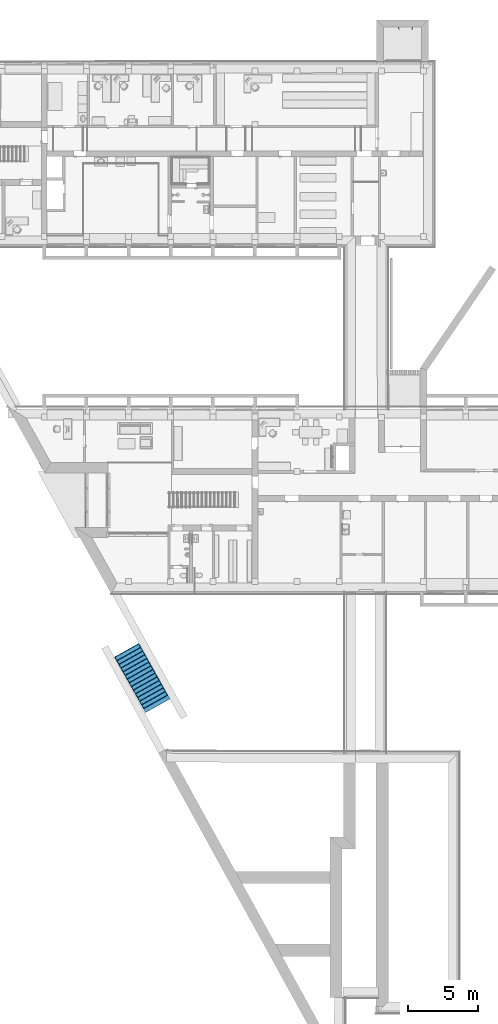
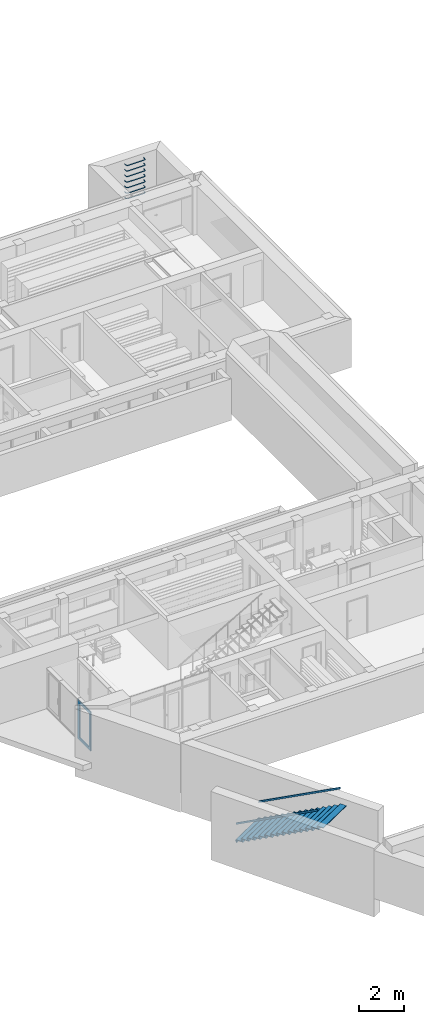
# One storey, part 61 of 127: 2 stairs, 1 building element part, 2 elements without a shape of their own.
"""IFC2X3 building model written with IfcOpenShell, lengths in millimetres."""

from ifc_helpers import new_model, entity, si_unit, converted_unit, derived_unit, money_unit, direction, frame, origin_with_axes, place, context, subcontext, project, spatial, faceted_brep, material, type_object, element, aggregate, save


model = new_model("IFC2X3")

# Units and contexts
model_context = context("Model", 3, precision=1e-05, world=origin_with_axes(), true_north=direction((0.0, 1.0)))
body_context = subcontext(model_context, "Body", "Model", "MODEL_VIEW")
ifc_project = project(units=[si_unit("LENGTHUNIT", "METRE", prefix="MILLI"), si_unit("AREAUNIT", "SQUARE_METRE"), si_unit("VOLUMEUNIT", "CUBIC_METRE"), converted_unit("PLANEANGLEUNIT", "DEGREE", entity("IfcPlaneAngleMeasure", 0.0174532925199), si_unit("PLANEANGLEUNIT", "RADIAN"), dimensions=[0, 0, 0, 0, 0, 0, 0]), si_unit("SOLIDANGLEUNIT", "STERADIAN"), money_unit("EUR"), converted_unit("TIMEUNIT", "Year", entity("IfcTimeMeasure", 31556926.0), si_unit("TIMEUNIT", "SECOND"), dimensions=[0, 0, 1, 0, 0, 0, 0]), si_unit("MASSUNIT", "GRAM", prefix="KILO"), si_unit("THERMODYNAMICTEMPERATUREUNIT", "DEGREE_CELSIUS"), si_unit("LUMINOUSINTENSITYUNIT", "LUMEN"), si_unit("ENERGYUNIT", "JOULE", prefix="MEGA"), derived_unit("THERMALCONDUCTANCEUNIT", [(si_unit("POWERUNIT", "WATT"), 1), (si_unit("LENGTHUNIT", "METRE"), -1), (si_unit("THERMODYNAMICTEMPERATUREUNIT", "KELVIN"), -1)]), derived_unit("SPECIFICHEATCAPACITYUNIT", [(si_unit("ENERGYUNIT", "JOULE"), 1), (si_unit("MASSUNIT", "GRAM", prefix="KILO"), -1), (si_unit("THERMODYNAMICTEMPERATUREUNIT", "KELVIN"), -1)]), derived_unit("MASSDENSITYUNIT", [(si_unit("MASSUNIT", "GRAM", prefix="KILO"), 1), (si_unit("VOLUMEUNIT", "CUBIC_METRE"), -1)])], contexts=[model_context])

# Site, building, storey
site_placement = place(None, origin_with_axes())
site = spatial("IfcSite", under=ifc_project, at=site_placement, Name="Site", CompositionType="ELEMENT")
building_placement = place(site_placement, origin_with_axes())
building = spatial("IfcBuilding", under=site, at=building_placement, Name="Building", CompositionType="ELEMENT")
storey_placement = place(building_placement, origin_with_axes())
storey = spatial("IfcBuildingStorey", under=building, at=storey_placement, Name="1 KORRUS", CompositionType="ELEMENT", Elevation=0.0)

# Stairs
stair_1_placement = place(storey_placement, frame((41660.2282706, 74449.3814304, 0.0), z_axis=(0.0, 0.0, 1.0), x_axis=(1.0, 0.0, 0.0)))
element("IfcStair", 1, at=stair_1_placement, inside=storey, Name="FU - 001", ShapeType="NOTDEFINED", context=body_context, shape_type="Brep", body=[
    faceted_brep([(-500.0, -112.0, 570.0), (-476.33422792, -169.13422792, 570.0), (-476.33422792, -169.13422792, 600.0), (-500.0, -112.0, 600.0), (-500.0, 0.0, 570.0), (-470.0, 0.0, 570.0), (-470.0, -112.0, 570.0), (-455.121024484, -147.921024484, 570.0), (-419.2, -162.8, 570.0), (419.2, -162.8, 570.0), (455.121024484, -147.921024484, 570.0), (470.0, -112.0, 570.0), (470.0, 0.0, 570.0), (500.0, 0.0, 570.0), (500.0, -112.0, 570.0), (476.33422792, -169.13422792, 570.0), (419.2, -192.8, 570.0), (-419.2, -192.8, 570.0), (-419.2, -192.8, 600.0), (419.2, -192.8, 600.0), (476.33422792, -169.13422792, 600.0), (500.0, -112.0, 600.0), (500.0, 0.0, 600.0), (470.0, 0.0, 600.0), (470.0, -112.0, 600.0), (455.121024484, -147.921024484, 600.0), (419.2, -162.8, 600.0), (-419.2, -162.8, 600.0), (-455.121024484, -147.921024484, 600.0), (-470.0, -112.0, 600.0), (-470.0, 0.0, 600.0), (-500.0, 0.0, 600.0)], [[[0, 1, 2, 3]], [[0, 4, 5, 6, 7, 8, 9, 10, 11, 12, 13, 14, 15, 16, 17, 1]], [[1, 17, 18, 2]], [[3, 2, 18, 19, 20, 21, 22, 23, 24, 25, 26, 27, 28, 29, 30, 31]], [[4, 0, 3, 31]], [[5, 4, 31, 30]], [[6, 5, 30, 29]], [[7, 6, 29, 28]], [[8, 7, 28, 27]], [[9, 8, 27, 26]], [[10, 9, 26, 25]], [[11, 10, 25, 24]], [[12, 11, 24, 23]], [[13, 12, 23, 22]], [[14, 13, 22, 21]], [[15, 14, 21, 20]], [[16, 15, 20, 19]], [[17, 16, 19, 18]]]),
    faceted_brep([(-500.0, -112.0, 870.0), (-476.33422792, -169.13422792, 870.0), (-476.33422792, -169.13422792, 900.0), (-500.0, -112.0, 900.0), (-500.0, 0.0, 870.0), (-470.0, 0.0, 870.0), (-470.0, -112.0, 870.0), (-455.121024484, -147.921024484, 870.0), (-419.2, -162.8, 870.0), (419.2, -162.8, 870.0), (455.121024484, -147.921024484, 870.0), (470.0, -112.0, 870.0), (470.0, 0.0, 870.0), (500.0, 0.0, 870.0), (500.0, -112.0, 870.0), (476.33422792, -169.13422792, 870.0), (419.2, -192.8, 870.0), (-419.2, -192.8, 870.0), (-419.2, -192.8, 900.0), (419.2, -192.8, 900.0), (476.33422792, -169.13422792, 900.0), (500.0, -112.0, 900.0), (500.0, 0.0, 900.0), (470.0, 0.0, 900.0), (470.0, -112.0, 900.0), (455.121024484, -147.921024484, 900.0), (419.2, -162.8, 900.0), (-419.2, -162.8, 900.0), (-455.121024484, -147.921024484, 900.0), (-470.0, -112.0, 900.0), (-470.0, 0.0, 900.0), (-500.0, 0.0, 900.0)], [[[0, 1, 2, 3]], [[0, 4, 5, 6, 7, 8, 9, 10, 11, 12, 13, 14, 15, 16, 17, 1]], [[1, 17, 18, 2]], [[3, 2, 18, 19, 20, 21, 22, 23, 24, 25, 26, 27, 28, 29, 30, 31]], [[4, 0, 3, 31]], [[5, 4, 31, 30]], [[6, 5, 30, 29]], [[7, 6, 29, 28]], [[8, 7, 28, 27]], [[9, 8, 27, 26]], [[10, 9, 26, 25]], [[11, 10, 25, 24]], [[12, 11, 24, 23]], [[13, 12, 23, 22]], [[14, 13, 22, 21]], [[15, 14, 21, 20]], [[16, 15, 20, 19]], [[17, 16, 19, 18]]]),
    faceted_brep([(-500.0, -112.0, 1170.0), (-476.33422792, -169.13422792, 1170.0), (-476.33422792, -169.13422792, 1200.0), (-500.0, -112.0, 1200.0), (-500.0, 0.0, 1170.0), (-470.0, 0.0, 1170.0), (-470.0, -112.0, 1170.0), (-455.121024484, -147.921024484, 1170.0), (-419.2, -162.8, 1170.0), (419.2, -162.8, 1170.0), (455.121024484, -147.921024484, 1170.0), (470.0, -112.0, 1170.0), (470.0, 0.0, 1170.0), (500.0, 0.0, 1170.0), (500.0, -112.0, 1170.0), (476.33422792, -169.13422792, 1170.0), (419.2, -192.8, 1170.0), (-419.2, -192.8, 1170.0), (-419.2, -192.8, 1200.0), (419.2, -192.8, 1200.0), (476.33422792, -169.13422792, 1200.0), (500.0, -112.0, 1200.0), (500.0, 0.0, 1200.0), (470.0, 0.0, 1200.0), (470.0, -112.0, 1200.0), (455.121024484, -147.921024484, 1200.0), (419.2, -162.8, 1200.0), (-419.2, -162.8, 1200.0), (-455.121024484, -147.921024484, 1200.0), (-470.0, -112.0, 1200.0), (-470.0, 0.0, 1200.0), (-500.0, 0.0, 1200.0)], [[[0, 1, 2, 3]], [[0, 4, 5, 6, 7, 8, 9, 10, 11, 12, 13, 14, 15, 16, 17, 1]], [[1, 17, 18, 2]], [[3, 2, 18, 19, 20, 21, 22, 23, 24, 25, 26, 27, 28, 29, 30, 31]], [[4, 0, 3, 31]], [[5, 4, 31, 30]], [[6, 5, 30, 29]], [[7, 6, 29, 28]], [[8, 7, 28, 27]], [[9, 8, 27, 26]], [[10, 9, 26, 25]], [[11, 10, 25, 24]], [[12, 11, 24, 23]], [[13, 12, 23, 22]], [[14, 13, 22, 21]], [[15, 14, 21, 20]], [[16, 15, 20, 19]], [[17, 16, 19, 18]]]),
    faceted_brep([(-500.0, -112.0, 1470.0), (-476.33422792, -169.13422792, 1470.0), (-476.33422792, -169.13422792, 1500.0), (-500.0, -112.0, 1500.0), (-500.0, 0.0, 1470.0), (-470.0, 0.0, 1470.0), (-470.0, -112.0, 1470.0), (-455.121024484, -147.921024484, 1470.0), (-419.2, -162.8, 1470.0), (419.2, -162.8, 1470.0), (455.121024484, -147.921024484, 1470.0), (470.0, -112.0, 1470.0), (470.0, 0.0, 1470.0), (500.0, 0.0, 1470.0), (500.0, -112.0, 1470.0), (476.33422792, -169.13422792, 1470.0), (419.2, -192.8, 1470.0), (-419.2, -192.8, 1470.0), (-419.2, -192.8, 1500.0), (419.2, -192.8, 1500.0), (476.33422792, -169.13422792, 1500.0), (500.0, -112.0, 1500.0), (500.0, 0.0, 1500.0), (470.0, 0.0, 1500.0), (470.0, -112.0, 1500.0), (455.121024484, -147.921024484, 1500.0), (419.2, -162.8, 1500.0), (-419.2, -162.8, 1500.0), (-455.121024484, -147.921024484, 1500.0), (-470.0, -112.0, 1500.0), (-470.0, 0.0, 1500.0), (-500.0, 0.0, 1500.0)], [[[0, 1, 2, 3]], [[0, 4, 5, 6, 7, 8, 9, 10, 11, 12, 13, 14, 15, 16, 17, 1]], [[1, 17, 18, 2]], [[3, 2, 18, 19, 20, 21, 22, 23, 24, 25, 26, 27, 28, 29, 30, 31]], [[4, 0, 3, 31]], [[5, 4, 31, 30]], [[6, 5, 30, 29]], [[7, 6, 29, 28]], [[8, 7, 28, 27]], [[9, 8, 27, 26]], [[10, 9, 26, 25]], [[11, 10, 25, 24]], [[12, 11, 24, 23]], [[13, 12, 23, 22]], [[14, 13, 22, 21]], [[15, 14, 21, 20]], [[16, 15, 20, 19]], [[17, 16, 19, 18]]]),
    faceted_brep([(-500.0, -112.0, 1770.0), (-476.33422792, -169.13422792, 1770.0), (-476.33422792, -169.13422792, 1800.0), (-500.0, -112.0, 1800.0), (-500.0, 0.0, 1770.0), (-470.0, 0.0, 1770.0), (-470.0, -112.0, 1770.0), (-455.121024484, -147.921024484, 1770.0), (-419.2, -162.8, 1770.0), (419.2, -162.8, 1770.0), (455.121024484, -147.921024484, 1770.0), (470.0, -112.0, 1770.0), (470.0, 0.0, 1770.0), (500.0, 0.0, 1770.0), (500.0, -112.0, 1770.0), (476.33422792, -169.13422792, 1770.0), (419.2, -192.8, 1770.0), (-419.2, -192.8, 1770.0), (-419.2, -192.8, 1800.0), (419.2, -192.8, 1800.0), (476.33422792, -169.13422792, 1800.0), (500.0, -112.0, 1800.0), (500.0, 0.0, 1800.0), (470.0, 0.0, 1800.0), (470.0, -112.0, 1800.0), (455.121024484, -147.921024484, 1800.0), (419.2, -162.8, 1800.0), (-419.2, -162.8, 1800.0), (-455.121024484, -147.921024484, 1800.0), (-470.0, -112.0, 1800.0), (-470.0, 0.0, 1800.0), (-500.0, 0.0, 1800.0)], [[[0, 1, 2, 3]], [[0, 4, 5, 6, 7, 8, 9, 10, 11, 12, 13, 14, 15, 16, 17, 1]], [[1, 17, 18, 2]], [[3, 2, 18, 19, 20, 21, 22, 23, 24, 25, 26, 27, 28, 29, 30, 31]], [[4, 0, 3, 31]], [[5, 4, 31, 30]], [[6, 5, 30, 29]], [[7, 6, 29, 28]], [[8, 7, 28, 27]], [[9, 8, 27, 26]], [[10, 9, 26, 25]], [[11, 10, 25, 24]], [[12, 11, 24, 23]], [[13, 12, 23, 22]], [[14, 13, 22, 21]], [[15, 14, 21, 20]], [[16, 15, 20, 19]], [[17, 16, 19, 18]]]),
    faceted_brep([(-500.0, -112.0, 2070.0), (-476.33422792, -169.13422792, 2070.0), (-476.33422792, -169.13422792, 2100.0), (-500.0, -112.0, 2100.0), (-500.0, 0.0, 2070.0), (-470.0, 0.0, 2070.0), (-470.0, -112.0, 2070.0), (-455.121024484, -147.921024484, 2070.0), (-419.2, -162.8, 2070.0), (419.2, -162.8, 2070.0), (455.121024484, -147.921024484, 2070.0), (470.0, -112.0, 2070.0), (470.0, 0.0, 2070.0), (500.0, 0.0, 2070.0), (500.0, -112.0, 2070.0), (476.33422792, -169.13422792, 2070.0), (419.2, -192.8, 2070.0), (-419.2, -192.8, 2070.0), (-419.2, -192.8, 2100.0), (419.2, -192.8, 2100.0), (476.33422792, -169.13422792, 2100.0), (500.0, -112.0, 2100.0), (500.0, 0.0, 2100.0), (470.0, 0.0, 2100.0), (470.0, -112.0, 2100.0), (455.121024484, -147.921024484, 2100.0), (419.2, -162.8, 2100.0), (-419.2, -162.8, 2100.0), (-455.121024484, -147.921024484, 2100.0), (-470.0, -112.0, 2100.0), (-470.0, 0.0, 2100.0), (-500.0, 0.0, 2100.0)], [[[0, 1, 2, 3]], [[0, 4, 5, 6, 7, 8, 9, 10, 11, 12, 13, 14, 15, 16, 17, 1]], [[1, 17, 18, 2]], [[3, 2, 18, 19, 20, 21, 22, 23, 24, 25, 26, 27, 28, 29, 30, 31]], [[4, 0, 3, 31]], [[5, 4, 31, 30]], [[6, 5, 30, 29]], [[7, 6, 29, 28]], [[8, 7, 28, 27]], [[9, 8, 27, 26]], [[10, 9, 26, 25]], [[11, 10, 25, 24]], [[12, 11, 24, 23]], [[13, 12, 23, 22]], [[14, 13, 22, 21]], [[15, 14, 21, 20]], [[16, 15, 20, 19]], [[17, 16, 19, 18]]]),
    faceted_brep([(-500.0, -112.0, 2370.0), (-476.33422792, -169.13422792, 2370.0), (-476.33422792, -169.13422792, 2400.0), (-500.0, -112.0, 2400.0), (-500.0, 0.0, 2370.0), (-470.0, 0.0, 2370.0), (-470.0, -112.0, 2370.0), (-455.121024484, -147.921024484, 2370.0), (-419.2, -162.8, 2370.0), (419.2, -162.8, 2370.0), (455.121024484, -147.921024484, 2370.0), (470.0, -112.0, 2370.0), (470.0, 0.0, 2370.0), (500.0, 0.0, 2370.0), (500.0, -112.0, 2370.0), (476.33422792, -169.13422792, 2370.0), (419.2, -192.8, 2370.0), (-419.2, -192.8, 2370.0), (-419.2, -192.8, 2400.0), (419.2, -192.8, 2400.0), (476.33422792, -169.13422792, 2400.0), (500.0, -112.0, 2400.0), (500.0, 0.0, 2400.0), (470.0, 0.0, 2400.0), (470.0, -112.0, 2400.0), (455.121024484, -147.921024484, 2400.0), (419.2, -162.8, 2400.0), (-419.2, -162.8, 2400.0), (-455.121024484, -147.921024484, 2400.0), (-470.0, -112.0, 2400.0), (-470.0, 0.0, 2400.0), (-500.0, 0.0, 2400.0)], [[[0, 1, 2, 3]], [[0, 4, 5, 6, 7, 8, 9, 10, 11, 12, 13, 14, 15, 16, 17, 1]], [[1, 17, 18, 2]], [[3, 2, 18, 19, 20, 21, 22, 23, 24, 25, 26, 27, 28, 29, 30, 31]], [[4, 0, 3, 31]], [[5, 4, 31, 30]], [[6, 5, 30, 29]], [[7, 6, 29, 28]], [[8, 7, 28, 27]], [[9, 8, 27, 26]], [[10, 9, 26, 25]], [[11, 10, 25, 24]], [[12, 11, 24, 23]], [[13, 12, 23, 22]], [[14, 13, 22, 21]], [[15, 14, 21, 20]], [[16, 15, 20, 19]], [[17, 16, 19, 18]]]),
])
stair_2_placement = place(storey_placement, frame((20950.6617716, 29570.1616597, -4.68796701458e-06), z_axis=(0.0, 0.0, 1.0), x_axis=(-0.872443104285, -0.48871569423, 0.0)))
element("IfcStair", 2, at=stair_2_placement, inside=storey, Name="Air Space", ShapeType="NOTDEFINED", context=body_context, shape_type="Brep", body=[
    faceted_brep([(0.0, 373.333333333, 122.5), (-2006.77870703, 373.333333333, 122.5), (-2006.77870703, 356.145833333, 160.0), (0.0, 356.145833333, 160.0), (0.0, 0.0, 122.5), (-2006.77870703, 0.0, 122.5), (-2006.77870703, 56.1458333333, 0.0), (-2006.77870703, 18.6458333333, 0.0), (-2006.77870703, -37.5, 122.5), (-2006.77870703, 0.0, 160.0), (0.0, 0.0, 160.0), (0.0, -37.5, 122.5), (0.0, 18.6458333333, 0.0), (0.0, 56.1458333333, 0.0)], [[[0, 1, 2, 3]], [[4, 5, 1, 0]], [[1, 5, 6, 7, 8, 9, 2]], [[3, 2, 9, 10]], [[0, 3, 10, 11, 12, 13, 4]], [[13, 6, 5, 4]], [[12, 7, 6, 13]], [[11, 8, 7, 12]], [[10, 9, 8, 11]]]),
    faceted_brep([(0.0, 673.333333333, 282.5), (-2006.77870703, 673.333333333, 282.5), (-2006.77870703, 656.145833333, 320.0), (0.0, 656.145833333, 320.0), (0.0, 300.0, 282.5), (-2006.77870703, 300.0, 282.5), (-2006.77870703, 356.145833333, 160.0), (-2006.77870703, 318.645833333, 160.0), (-2006.77870703, 262.5, 282.5), (-2006.77870703, 300.0, 320.0), (0.0, 300.0, 320.0), (0.0, 262.5, 282.5), (0.0, 318.645833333, 160.0), (0.0, 356.145833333, 160.0)], [[[0, 1, 2, 3]], [[4, 5, 1, 0]], [[1, 5, 6, 7, 8, 9, 2]], [[3, 2, 9, 10]], [[0, 3, 10, 11, 12, 13, 4]], [[13, 6, 5, 4]], [[12, 7, 6, 13]], [[11, 8, 7, 12]], [[10, 9, 8, 11]]]),
    faceted_brep([(0.0, 973.333333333, 442.5), (-2006.77870703, 973.333333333, 442.5), (-2006.77870703, 956.145833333, 480.0), (0.0, 956.145833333, 480.0), (0.0, 600.0, 442.5), (-2006.77870703, 600.0, 442.5), (-2006.77870703, 656.145833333, 320.0), (-2006.77870703, 618.645833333, 320.0), (-2006.77870703, 562.5, 442.5), (-2006.77870703, 600.0, 480.0), (0.0, 600.0, 480.0), (0.0, 562.5, 442.5), (0.0, 618.645833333, 320.0), (0.0, 656.145833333, 320.0)], [[[0, 1, 2, 3]], [[4, 5, 1, 0]], [[1, 5, 6, 7, 8, 9, 2]], [[3, 2, 9, 10]], [[0, 3, 10, 11, 12, 13, 4]], [[13, 6, 5, 4]], [[12, 7, 6, 13]], [[11, 8, 7, 12]], [[10, 9, 8, 11]]]),
    faceted_brep([(0.0, 1273.33333333, 602.5), (-2006.77870703, 1273.33333333, 602.5), (-2006.77870703, 1256.14583333, 640.0), (0.0, 1256.14583333, 640.0), (0.0, 900.0, 602.5), (-2006.77870703, 900.0, 602.5), (-2006.77870703, 956.145833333, 480.0), (-2006.77870703, 918.645833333, 480.0), (-2006.77870703, 862.5, 602.5), (-2006.77870703, 900.0, 640.0), (0.0, 900.0, 640.0), (0.0, 862.5, 602.5), (0.0, 918.645833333, 480.0), (0.0, 956.145833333, 480.0)], [[[0, 1, 2, 3]], [[4, 5, 1, 0]], [[1, 5, 6, 7, 8, 9, 2]], [[3, 2, 9, 10]], [[0, 3, 10, 11, 12, 13, 4]], [[13, 6, 5, 4]], [[12, 7, 6, 13]], [[11, 8, 7, 12]], [[10, 9, 8, 11]]]),
    faceted_brep([(0.0, 1573.33333333, 762.5), (-2006.77870703, 1573.33333333, 762.5), (-2006.77870703, 1556.14583333, 800.0), (0.0, 1556.14583333, 800.0), (0.0, 1200.0, 762.5), (-2006.77870703, 1200.0, 762.5), (-2006.77870703, 1256.14583333, 640.0), (-2006.77870703, 1218.64583333, 640.0), (-2006.77870703, 1162.5, 762.5), (-2006.77870703, 1200.0, 800.0), (0.0, 1200.0, 800.0), (0.0, 1162.5, 762.5), (0.0, 1218.64583333, 640.0), (0.0, 1256.14583333, 640.0)], [[[0, 1, 2, 3]], [[4, 5, 1, 0]], [[1, 5, 6, 7, 8, 9, 2]], [[3, 2, 9, 10]], [[0, 3, 10, 11, 12, 13, 4]], [[13, 6, 5, 4]], [[12, 7, 6, 13]], [[11, 8, 7, 12]], [[10, 9, 8, 11]]]),
    faceted_brep([(0.0, 1873.33333333, 922.5), (-2006.77870703, 1873.33333333, 922.5), (-2006.77870703, 1856.14583333, 960.0), (0.0, 1856.14583333, 960.0), (0.0, 1500.0, 922.5), (-2006.77870703, 1500.0, 922.5), (-2006.77870703, 1556.14583333, 800.0), (-2006.77870703, 1518.64583333, 800.0), (-2006.77870703, 1462.5, 922.5), (-2006.77870703, 1500.0, 960.0), (0.0, 1500.0, 960.0), (0.0, 1462.5, 922.5), (0.0, 1518.64583333, 800.0), (0.0, 1556.14583333, 800.0)], [[[0, 1, 2, 3]], [[4, 5, 1, 0]], [[1, 5, 6, 7, 8, 9, 2]], [[3, 2, 9, 10]], [[0, 3, 10, 11, 12, 13, 4]], [[13, 6, 5, 4]], [[12, 7, 6, 13]], [[11, 8, 7, 12]], [[10, 9, 8, 11]]]),
    faceted_brep([(0.0, 2173.33333333, 1082.5), (-2006.77870703, 2173.33333333, 1082.5), (-2006.77870703, 2156.14583333, 1120.0), (0.0, 2156.14583333, 1120.0), (0.0, 1800.0, 1082.5), (-2006.77870703, 1800.0, 1082.5), (-2006.77870703, 1856.14583333, 960.0), (-2006.77870703, 1818.64583333, 960.0), (-2006.77870703, 1762.5, 1082.5), (-2006.77870703, 1800.0, 1120.0), (0.0, 1800.0, 1120.0), (0.0, 1762.5, 1082.5), (0.0, 1818.64583333, 960.0), (0.0, 1856.14583333, 960.0)], [[[0, 1, 2, 3]], [[4, 5, 1, 0]], [[1, 5, 6, 7, 8, 9, 2]], [[3, 2, 9, 10]], [[0, 3, 10, 11, 12, 13, 4]], [[13, 6, 5, 4]], [[12, 7, 6, 13]], [[11, 8, 7, 12]], [[10, 9, 8, 11]]]),
    faceted_brep([(0.0, 2473.33333333, 1242.5), (-2006.77870703, 2473.33333333, 1242.5), (-2006.77870703, 2456.14583333, 1280.0), (0.0, 2456.14583333, 1280.0), (0.0, 2100.0, 1242.5), (-2006.77870703, 2100.0, 1242.5), (-2006.77870703, 2156.14583333, 1120.0), (-2006.77870703, 2118.64583333, 1120.0), (-2006.77870703, 2062.5, 1242.5), (-2006.77870703, 2100.0, 1280.0), (0.0, 2100.0, 1280.0), (0.0, 2062.5, 1242.5), (0.0, 2118.64583333, 1120.0), (0.0, 2156.14583333, 1120.0)], [[[0, 1, 2, 3]], [[4, 5, 1, 0]], [[1, 5, 6, 7, 8, 9, 2]], [[3, 2, 9, 10]], [[0, 3, 10, 11, 12, 13, 4]], [[13, 6, 5, 4]], [[12, 7, 6, 13]], [[11, 8, 7, 12]], [[10, 9, 8, 11]]]),
    faceted_brep([(0.0, 2773.33333333, 1402.5), (-2006.77870703, 2773.33333333, 1402.5), (-2006.77870703, 2756.14583333, 1440.0), (0.0, 2756.14583333, 1440.0), (0.0, 2400.0, 1402.5), (-2006.77870703, 2400.0, 1402.5), (-2006.77870703, 2456.14583333, 1280.0), (-2006.77870703, 2418.64583333, 1280.0), (-2006.77870703, 2362.5, 1402.5), (-2006.77870703, 2400.0, 1440.0), (0.0, 2400.0, 1440.0), (0.0, 2362.5, 1402.5), (0.0, 2418.64583333, 1280.0), (0.0, 2456.14583333, 1280.0)], [[[0, 1, 2, 3]], [[4, 5, 1, 0]], [[1, 5, 6, 7, 8, 9, 2]], [[3, 2, 9, 10]], [[0, 3, 10, 11, 12, 13, 4]], [[13, 6, 5, 4]], [[12, 7, 6, 13]], [[11, 8, 7, 12]], [[10, 9, 8, 11]]]),
    faceted_brep([(0.0, 3073.33333333, 1562.5), (-2006.77870703, 3073.33333333, 1562.5), (-2006.77870703, 3056.14583333, 1600.0), (0.0, 3056.14583333, 1600.0), (0.0, 2700.0, 1562.5), (-2006.77870703, 2700.0, 1562.5), (-2006.77870703, 2756.14583333, 1440.0), (-2006.77870703, 2718.64583333, 1440.0), (-2006.77870703, 2662.5, 1562.5), (-2006.77870703, 2700.0, 1600.0), (0.0, 2700.0, 1600.0), (0.0, 2662.5, 1562.5), (0.0, 2718.64583333, 1440.0), (0.0, 2756.14583333, 1440.0)], [[[0, 1, 2, 3]], [[4, 5, 1, 0]], [[1, 5, 6, 7, 8, 9, 2]], [[3, 2, 9, 10]], [[0, 3, 10, 11, 12, 13, 4]], [[13, 6, 5, 4]], [[12, 7, 6, 13]], [[11, 8, 7, 12]], [[10, 9, 8, 11]]]),
    faceted_brep([(0.0, 3373.33333333, 1722.5), (-2006.77870703, 3373.33333333, 1722.5), (-2006.77870703, 3356.14583333, 1760.0), (0.0, 3356.14583333, 1760.0), (0.0, 3000.0, 1722.5), (-2006.77870703, 3000.0, 1722.5), (-2006.77870703, 3056.14583333, 1600.0), (-2006.77870703, 3018.64583333, 1600.0), (-2006.77870703, 2962.5, 1722.5), (-2006.77870703, 3000.0, 1760.0), (0.0, 3000.0, 1760.0), (0.0, 2962.5, 1722.5), (0.0, 3018.64583333, 1600.0), (0.0, 3056.14583333, 1600.0)], [[[0, 1, 2, 3]], [[4, 5, 1, 0]], [[1, 5, 6, 7, 8, 9, 2]], [[3, 2, 9, 10]], [[0, 3, 10, 11, 12, 13, 4]], [[13, 6, 5, 4]], [[12, 7, 6, 13]], [[11, 8, 7, 12]], [[10, 9, 8, 11]]]),
    faceted_brep([(0.0, 3673.33333333, 1882.5), (-2006.77870703, 3673.33333333, 1882.5), (-2006.77870703, 3656.14583333, 1920.0), (0.0, 3656.14583333, 1920.0), (0.0, 3300.0, 1882.5), (-2006.77870703, 3300.0, 1882.5), (-2006.77870703, 3356.14583333, 1760.0), (-2006.77870703, 3318.64583333, 1760.0), (-2006.77870703, 3262.5, 1882.5), (-2006.77870703, 3300.0, 1920.0), (0.0, 3300.0, 1920.0), (0.0, 3262.5, 1882.5), (0.0, 3318.64583333, 1760.0), (0.0, 3356.14583333, 1760.0)], [[[0, 1, 2, 3]], [[4, 5, 1, 0]], [[1, 5, 6, 7, 8, 9, 2]], [[3, 2, 9, 10]], [[0, 3, 10, 11, 12, 13, 4]], [[13, 6, 5, 4]], [[12, 7, 6, 13]], [[11, 8, 7, 12]], [[10, 9, 8, 11]]]),
    faceted_brep([(0.0, 3973.33333333, 2042.5), (-2006.77870703, 3973.33333333, 2042.5), (-2006.77870703, 3956.14583333, 2080.0), (0.0, 3956.14583333, 2080.0), (0.0, 3600.0, 2042.5), (-2006.77870703, 3600.0, 2042.5), (-2006.77870703, 3656.14583333, 1920.0), (-2006.77870703, 3618.64583333, 1920.0), (-2006.77870703, 3562.5, 2042.5), (-2006.77870703, 3600.0, 2080.0), (0.0, 3600.0, 2080.0), (0.0, 3562.5, 2042.5), (0.0, 3618.64583333, 1920.0), (0.0, 3656.14583333, 1920.0)], [[[0, 1, 2, 3]], [[4, 5, 1, 0]], [[1, 5, 6, 7, 8, 9, 2]], [[3, 2, 9, 10]], [[0, 3, 10, 11, 12, 13, 4]], [[13, 6, 5, 4]], [[12, 7, 6, 13]], [[11, 8, 7, 12]], [[10, 9, 8, 11]]]),
    faceted_brep([(0.0, 4273.33333333, 2202.5), (-2006.77870703, 4273.33333333, 2202.5), (-2006.77870703, 4256.14583333, 2240.0), (0.0, 4256.14583333, 2240.0), (0.0, 3900.0, 2202.5), (-2006.77870703, 3900.0, 2202.5), (-2006.77870703, 3956.14583333, 2080.0), (-2006.77870703, 3918.64583333, 2080.0), (-2006.77870703, 3862.5, 2202.5), (-2006.77870703, 3900.0, 2240.0), (0.0, 3900.0, 2240.0), (0.0, 3862.5, 2202.5), (0.0, 3918.64583333, 2080.0), (0.0, 3956.14583333, 2080.0)], [[[0, 1, 2, 3]], [[4, 5, 1, 0]], [[1, 5, 6, 7, 8, 9, 2]], [[3, 2, 9, 10]], [[0, 3, 10, 11, 12, 13, 4]], [[13, 6, 5, 4]], [[12, 7, 6, 13]], [[11, 8, 7, 12]], [[10, 9, 8, 11]]]),
    faceted_brep([(0.0, 4500.0, 2362.5), (-2006.77870703, 4500.0, 2362.5), (-2006.77870703, 4500.0, 2400.0), (0.0, 4500.0, 2400.0), (0.0, 4200.0, 2362.5), (-2006.77870703, 4200.0, 2362.5), (-2006.77870703, 4256.14583333, 2240.0), (-2006.77870703, 4218.64583333, 2240.0), (-2006.77870703, 4162.5, 2362.5), (-2006.77870703, 4200.0, 2400.0), (0.0, 4200.0, 2400.0), (0.0, 4162.5, 2362.5), (0.0, 4218.64583333, 2240.0), (0.0, 4256.14583333, 2240.0)], [[[0, 1, 2, 3]], [[4, 5, 1, 0]], [[1, 5, 6, 7, 8, 9, 2]], [[3, 2, 9, 10]], [[0, 3, 10, 11, 12, 13, 4]], [[13, 6, 5, 4]], [[12, 7, 6, 13]], [[11, 8, 7, 12]], [[10, 9, 8, 11]]]),
    faceted_brep([(0.0, 0.0, 960.0), (-40.0, 0.0, 960.0), (-40.0, 4200.0, 3200.0), (0.0, 4200.0, 3200.0), (0.0, 0.0, 1060.0), (-40.0, 0.0, 1060.0), (-40.0, 4200.0, 3300.0), (0.0, 4200.0, 3300.0)], [[[0, 1, 2, 3]], [[4, 5, 1, 0]], [[1, 5, 6, 2]], [[3, 2, 6, 7]], [[0, 3, 7, 4]], [[7, 6, 5, 4]]]),
    faceted_brep([(-1966.77870703, 0.0, 960.0), (-2006.77870703, 0.0, 960.0), (-2006.77870703, 4200.0, 3200.0), (-1966.77870703, 4200.0, 3200.0), (-1966.77870703, 0.0, 1060.0), (-2006.77870703, 0.0, 1060.0), (-2006.77870703, 4200.0, 3300.0), (-1966.77870703, 4200.0, 3300.0)], [[[0, 1, 2, 3]], [[4, 5, 1, 0]], [[1, 5, 6, 2]], [[3, 2, 6, 7]], [[0, 3, 7, 4]], [[7, 6, 5, 4]]]),
])

# Curtain wall, door, building element part
curtain_wall_type = type_object("IfcCurtainWallType", Name="VU-2", PredefinedType="NOTDEFINED")
curtain_wall_placement = place(storey_placement, frame((18897.7258144, 42128.0459009, 25.0), z_axis=(0.0, 0.0, 1.0), x_axis=(1.0, 0.0, 0.0)))
curtain_wall = element("IfcCurtainWall", 3, at=curtain_wall_placement, inside=storey, type_object=curtain_wall_type, Name="Välisuks")
door_style = type_object("IfcDoorStyle", Name="1150 x 5 x 20", ConstructionType="NOTDEFINED", OperationType="NOTDEFINED", ParameterTakesPrecedence=False, Sizeable=False)
door_placement = place(curtain_wall_placement, frame((0.0, -2715.54791545, 1075.0), z_axis=(0.0, 0.0, 1.0), x_axis=(0.0, 1.0, 0.0)))
door = element("IfcDoor", 4, at=door_placement, type_object=door_style, Name="Välisuks * CW Door 22")
aggregate(curtain_wall, [door])
ifc_material = material(Name="Alumiinium (1)")
building_element_part_placement = place(door_placement, origin_with_axes())
building_element_part = element("IfcBuildingElementPart", 5, at=building_element_part_placement, material=ifc_material, Name="Alumiinium (1)", context=body_context, shape_type="Brep", body=[
    faceted_brep([(-575.000011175, -35.0, -1049.99999627), (-575.000011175, -35.0, 1049.99999627), (-575.000011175, -30.0, 1049.99999627), (-575.000011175, -30.0, -1049.99999627), (-530.000011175, -35.0, -1049.99999627), (-530.000011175, -35.0, 1004.99999627), (-530.000011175, -30.0, 1004.99999627), (-530.000011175, -30.0, -1049.99999627)], [[[0, 1, 2, 3]], [[0, 4, 5, 1]], [[1, 5, 6, 2]], [[3, 2, 6, 7]], [[4, 0, 3, 7]], [[5, 4, 7, 6]]]),
    faceted_brep([(564.999998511, -35.0, 1049.99999627), (519.999998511, -35.0, 1004.99999627), (519.999998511, -30.0, 1004.99999627), (564.999998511, -30.0, 1049.99999627), (-575.000011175, -35.0, 1049.99999627), (-530.000011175, -35.0, 1004.99999627), (-530.000011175, -30.0, 1004.99999627), (-575.000011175, -30.0, 1049.99999627)], [[[0, 1, 2, 3]], [[0, 4, 5, 1]], [[1, 5, 6, 2]], [[3, 2, 6, 7]], [[4, 0, 3, 7]], [[5, 4, 7, 6]]]),
    faceted_brep([(564.999998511, -35.0, -1049.99999627), (519.999998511, -35.0, -1049.99999627), (519.999998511, -30.0, -1049.99999627), (564.999998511, -30.0, -1049.99999627), (564.999998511, -35.0, 1049.99999627), (519.999998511, -35.0, 1004.99999627), (519.999998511, -30.0, 1004.99999627), (564.999998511, -30.0, 1049.99999627)], [[[0, 1, 2, 3]], [[0, 4, 5, 1]], [[1, 5, 6, 2]], [[3, 2, 6, 7]], [[4, 0, 3, 7]], [[5, 4, 7, 6]]]),
    faceted_brep([(-575.000011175, -30.0, -1049.99999627), (-575.000011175, -30.0, 1049.99999627), (-575.000011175, 20.0, 1049.99999627), (-575.000011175, 20.0, -1049.99999627), (-555.000011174, -30.0, -1049.99999627), (-555.000011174, -30.0, 1029.99999627), (-555.000011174, 20.0, 1029.99999627), (-555.000011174, 20.0, -1049.99999627)], [[[0, 1, 2, 3]], [[0, 4, 5, 1]], [[1, 5, 6, 2]], [[3, 2, 6, 7]], [[4, 0, 3, 7]], [[5, 4, 7, 6]]]),
    faceted_brep([(564.999998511, -30.0, 1049.99999627), (544.99999851, -30.0, 1029.99999627), (544.99999851, 20.0, 1029.99999627), (564.999998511, 20.0, 1049.99999627), (-575.000011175, -30.0, 1049.99999627), (-555.000011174, -30.0, 1029.99999627), (-555.000011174, 20.0, 1029.99999627), (-575.000011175, 20.0, 1049.99999627)], [[[0, 1, 2, 3]], [[0, 4, 5, 1]], [[1, 5, 6, 2]], [[3, 2, 6, 7]], [[4, 0, 3, 7]], [[5, 4, 7, 6]]]),
    faceted_brep([(564.999998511, -30.0, -1049.99999627), (544.99999851, -30.0, -1049.99999627), (544.99999851, 20.0, -1049.99999627), (564.999998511, 20.0, -1049.99999627), (564.999998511, -30.0, 1049.99999627), (544.99999851, -30.0, 1029.99999627), (544.99999851, 20.0, 1029.99999627), (564.999998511, 20.0, 1049.99999627)], [[[0, 1, 2, 3]], [[0, 4, 5, 1]], [[1, 5, 6, 2]], [[3, 2, 6, 7]], [[4, 0, 3, 7]], [[5, 4, 7, 6]]]),
    faceted_brep([(595.000000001, -9.99999999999, -1080.0), (-575.000032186, -9.99999999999, -1080.0), (-575.000032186, 9.99999999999, -1080.0), (595.000000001, 9.99999999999, -1080.0), (564.999998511, -9.99999999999, -1049.99999627), (-575.000011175, -9.99999999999, -1049.99999627), (-575.000011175, 9.99999999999, -1049.99999627), (564.999998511, 9.99999999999, -1049.99999627)], [[[0, 1, 2, 3]], [[0, 4, 5, 1]], [[1, 5, 6, 2]], [[3, 2, 6, 7]], [[4, 0, 3, 7]], [[5, 4, 7, 6]]]),
    faceted_brep([(-575.000032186, -9.99999999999, 1080.0), (595.000000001, -9.99999999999, 1080.0), (595.000000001, 9.99999999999, 1080.0), (-575.000032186, 9.99999999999, 1080.0), (-575.000011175, -9.99999999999, 1049.99999627), (564.999998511, -9.99999999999, 1049.99999627), (564.999998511, 9.99999999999, 1049.99999627), (-575.000011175, 9.99999999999, 1049.99999627)], [[[0, 1, 2, 3]], [[0, 4, 5, 1]], [[1, 5, 6, 2]], [[3, 2, 6, 7]], [[4, 0, 3, 7]], [[5, 4, 7, 6]]]),
    faceted_brep([(595.000000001, -9.99999999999, 1080.0), (595.000000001, -9.99999999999, -1080.0), (595.000000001, 9.99999999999, -1080.0), (595.000000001, 9.99999999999, 1080.0), (564.999998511, -9.99999999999, 1049.99999627), (564.999998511, -9.99999999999, -1049.99999627), (564.999998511, 9.99999999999, -1049.99999627), (564.999998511, 9.99999999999, 1049.99999627)], [[[0, 1, 2, 3]], [[0, 4, 5, 1]], [[1, 5, 6, 2]], [[3, 2, 6, 7]], [[4, 0, 3, 7]], [[5, 4, 7, 6]]]),
    faceted_brep([(424.99999851, -30.0, -929.999996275), (424.99999851, -30.0, 909.999996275), (424.99999851, 20.0, 909.999996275), (424.99999851, 20.0, -929.999996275), (544.99999851, -30.0, -1049.99999627), (544.99999851, -30.0, 1029.99999627), (544.99999851, 20.0, 1029.99999627), (544.99999851, 20.0, -1049.99999627)], [[[0, 1, 2, 3]], [[0, 4, 5, 1]], [[1, 5, 6, 2]], [[3, 2, 6, 7]], [[4, 0, 3, 7]], [[5, 4, 7, 6]]]),
    faceted_brep([(-555.000011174, -30.0, -1049.99999627), (-555.000011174, -30.0, 1029.99999627), (-555.000011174, 20.0, 1029.99999627), (-555.000011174, 20.0, -1049.99999627), (-435.000011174, -30.0, -929.999996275), (-435.000011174, -30.0, 909.999996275), (-435.000011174, 20.0, 909.999996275), (-435.000011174, 20.0, -929.999996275)], [[[0, 1, 2, 3]], [[0, 4, 5, 1]], [[1, 5, 6, 2]], [[3, 2, 6, 7]], [[4, 0, 3, 7]], [[5, 4, 7, 6]]]),
    faceted_brep([(-555.000011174, -30.0, -1049.99999627), (-435.000011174, -30.0, -929.999996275), (-435.000011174, 20.0, -929.999996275), (-555.000011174, 20.0, -1049.99999627), (544.99999851, -30.0, -1049.99999627), (424.99999851, -30.0, -929.999996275), (424.99999851, 20.0, -929.999996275), (544.99999851, 20.0, -1049.99999627)], [[[0, 1, 2, 3]], [[0, 4, 5, 1]], [[1, 5, 6, 2]], [[3, 2, 6, 7]], [[4, 0, 3, 7]], [[5, 4, 7, 6]]]),
    faceted_brep([(544.99999851, -30.0, 1029.99999627), (424.99999851, -30.0, 909.999996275), (424.99999851, 20.0, 909.999996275), (544.99999851, 20.0, 1029.99999627), (-555.000011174, -30.0, 1029.99999627), (-435.000011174, -30.0, 909.999996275), (-435.000011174, 20.0, 909.999996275), (-555.000011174, 20.0, 1029.99999627)], [[[0, 1, 2, 3]], [[0, 4, 5, 1]], [[1, 5, 6, 2]], [[3, 2, 6, 7]], [[4, 0, 3, 7]], [[5, 4, 7, 6]]]),
])
aggregate(door, [building_element_part])

save(model, "model.ifc")
